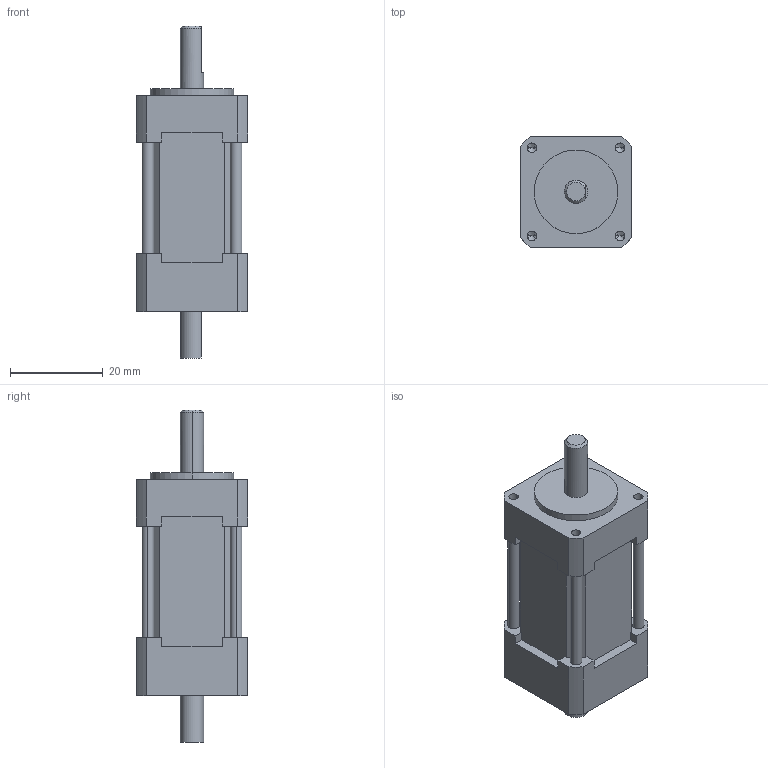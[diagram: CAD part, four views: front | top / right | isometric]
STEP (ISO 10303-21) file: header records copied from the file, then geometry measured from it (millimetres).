
FILE_DESCRIPTION (( 'STEP AP214' ), '1' );
FILE_NAME ('TS3664N12E3.STEP', '2016-09-09T06:42:02', ( 'hoho' ), ( '' ), 'SwSTEP 2.0', 'SolidWorks 2013', '' );
FILE_SCHEMA (( 'AUTOMOTIVE_DESIGN' ));
Length unit declared in the file: millimetre
Products named in the file (1): TS3664N12E3
Bounding box: 24 x 24 x 71.5 mm (x, y, z)
Volume: 22749.6 mm3; surface area: 6626 mm2
Topology: 1 solids, 1 shells, 95 faces, 260 edges, 166 vertices
Faces by surface type: plane 56, cylinder 29, cone 10
Entity records: 3174 total; most frequent: CARTESIAN_POINT 526, ORIENTED_EDGE 504, DIRECTION 504, EDGE_CURVE 252, VECTOR 188, LINE 188, VERTEX_POINT 166, AXIS2_PLACEMENT_3D 158
